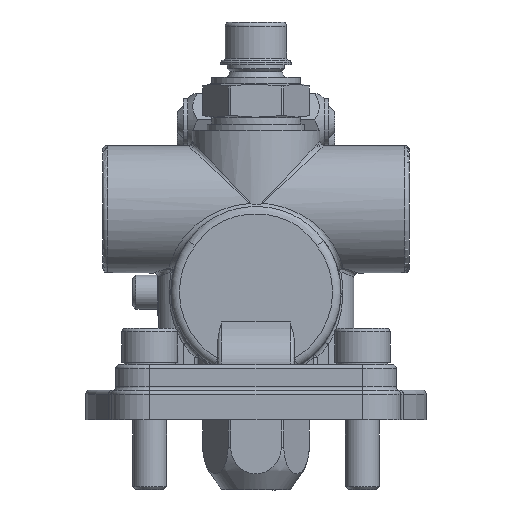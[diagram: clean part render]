
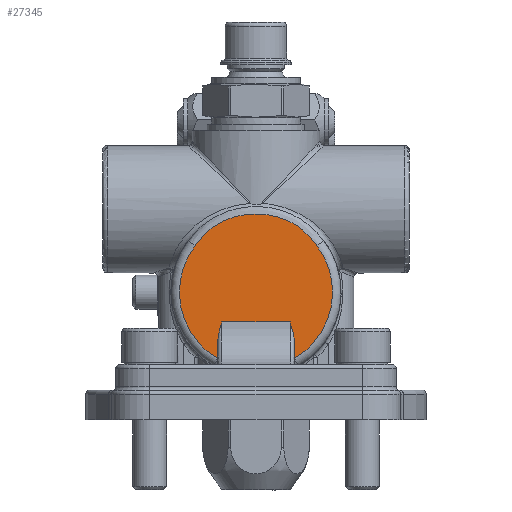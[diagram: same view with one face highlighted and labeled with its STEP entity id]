
A CAD part, left-side view. The second image highlights one B-rep face of the part: STEP entity #27345.
In plain terms, the highlighted planar face has unit normal (-1, 0, 0).
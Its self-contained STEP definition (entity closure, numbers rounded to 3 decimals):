
#22219=CARTESIAN_POINT('',(-25.5,-14.312,39.917));
#22220=VERTEX_POINT('',#22219);
#22228=CARTESIAN_POINT('',(-25.5,-9.,13.412));
#22229=VERTEX_POINT('',#22228);
#22230=CARTESIAN_POINT('',(-25.5,0.,29.));
#22231=DIRECTION('',(1.0,0.0,0.0));
#22232=DIRECTION('',(0.0,0.0,1.0));
#22233=AXIS2_PLACEMENT_3D('',#22230,#22231,#22232);
#22234=CIRCLE('',#22233,18.0);
#22235=EDGE_CURVE('',#22220,#22229,#22234,.T.);
#22314=CARTESIAN_POINT('',(-25.5,14.312,39.917));
#22315=VERTEX_POINT('',#22314);
#22323=CARTESIAN_POINT('',(-25.5,14.312,39.917));
#22324=CARTESIAN_POINT('',(-25.5,13.827,40.552));
#22325=CARTESIAN_POINT('',(-25.5,12.849,41.819));
#22326=CARTESIAN_POINT('',(-25.5,10.602,44.118));
#22327=CARTESIAN_POINT('',(-25.5,7.143,46.227));
#22328=CARTESIAN_POINT('',(-25.5,0.841,47.796));
#22329=CARTESIAN_POINT('',(-25.5,-5.727,47.051));
#22330=CARTESIAN_POINT('',(-25.5,-10.598,44.13));
#22331=CARTESIAN_POINT('',(-25.5,-12.839,41.827));
#22332=CARTESIAN_POINT('',(-25.5,-13.827,40.552));
#22333=CARTESIAN_POINT('',(-25.5,-14.312,39.917));
#22334=B_SPLINE_CURVE_WITH_KNOTS('',3,(#22323,#22324,#22325,#22326,#22327,#22328,#22329,#22330,#22331,#22332,#22333),.UNSPECIFIED.,.F.,.U.,(4,1,1,1,1,1,1,1,4),(0.,0.24,0.48,0.959,1.439,2.398,2.878,3.117,3.357),.UNSPECIFIED.);
#22335=EDGE_CURVE('',#22315,#22220,#22334,.T.);
#22370=CARTESIAN_POINT('',(-25.5,9.,13.412));
#22371=VERTEX_POINT('',#22370);
#22379=CARTESIAN_POINT('',(-25.5,0.,29.));
#22380=DIRECTION('',(1.0,0.0,0.0));
#22381=DIRECTION('',(0.0,0.0,1.0));
#22382=AXIS2_PLACEMENT_3D('',#22379,#22380,#22381);
#22383=CIRCLE('',#22382,18.0);
#22384=EDGE_CURVE('',#22371,#22315,#22383,.T.);
#25257=CARTESIAN_POINT('',(-25.5,-9.,17.417));
#25258=VERTEX_POINT('',#25257);
#25259=CARTESIAN_POINT('',(-25.5,-9.,17.417));
#25260=DIRECTION('',(0.0,0.0,-1.0));
#25261=VECTOR('',#25260,4.006);
#25262=LINE('',#25259,#25261);
#25263=EDGE_CURVE('',#25258,#22229,#25262,.T.);
#26372=CARTESIAN_POINT('',(-25.5,9.,17.417));
#26373=VERTEX_POINT('',#26372);
#26381=CARTESIAN_POINT('',(-25.5,9.,13.412));
#26382=DIRECTION('',(0.0,0.0,1.0));
#26383=VECTOR('',#26382,4.006);
#26384=LINE('',#26381,#26383);
#26385=EDGE_CURVE('',#22371,#26373,#26384,.T.);
#26786=CARTESIAN_POINT('',(-25.5,-8.,22.0));
#26787=VERTEX_POINT('',#26786);
#26788=CARTESIAN_POINT('',(-25.5,-8.,22.0));
#26789=CARTESIAN_POINT('',(-25.5,-8.447,20.588));
#26790=CARTESIAN_POINT('',(-25.5,-9.,18.899));
#26791=CARTESIAN_POINT('',(-25.5,-9.,17.417));
#26792=B_SPLINE_CURVE_WITH_KNOTS('',3,(#26788,#26789,#26790,#26791),.UNSPECIFIED.,.F.,.U.,(4,4),(0.0,0.444),.UNSPECIFIED.);
#26793=EDGE_CURVE('',#25258,#26787,#26792,.F.);
#26848=CARTESIAN_POINT('',(-25.5,8.,22.0));
#26849=VERTEX_POINT('',#26848);
#26850=CARTESIAN_POINT('',(-25.5,9.,17.417));
#26851=CARTESIAN_POINT('',(-25.5,9.,18.899));
#26852=CARTESIAN_POINT('',(-25.5,8.447,20.588));
#26853=CARTESIAN_POINT('',(-25.5,8.,22.0));
#26854=B_SPLINE_CURVE_WITH_KNOTS('',3,(#26850,#26851,#26852,#26853),.UNSPECIFIED.,.F.,.U.,(4,4),(0.913,1.357),.UNSPECIFIED.);
#26855=EDGE_CURVE('',#26849,#26373,#26854,.F.);
#27254=CARTESIAN_POINT('',(-25.5,-8.,22.0));
#27255=DIRECTION('',(0.0,1.0,0.0));
#27256=VECTOR('',#27255,16.);
#27257=LINE('',#27254,#27256);
#27258=EDGE_CURVE('',#26787,#26849,#27257,.T.);
#27330=CARTESIAN_POINT('',(-25.5,0.,29.));
#27331=DIRECTION('',(-1.0,0.0,0.0));
#27332=DIRECTION('',(0.0,0.0,1.0));
#27333=AXIS2_PLACEMENT_3D('',#27330,#27331,#27332);
#27334=PLANE('',#27333);
#27335=ORIENTED_EDGE('',*,*,#22384,.F.);
#27336=ORIENTED_EDGE('',*,*,#26385,.T.);
#27337=ORIENTED_EDGE('',*,*,#26855,.F.);
#27338=ORIENTED_EDGE('',*,*,#27258,.F.);
#27339=ORIENTED_EDGE('',*,*,#26793,.F.);
#27340=ORIENTED_EDGE('',*,*,#25263,.T.);
#27341=ORIENTED_EDGE('',*,*,#22235,.F.);
#27342=ORIENTED_EDGE('',*,*,#22335,.F.);
#27343=EDGE_LOOP('',(#27335,#27336,#27337,#27338,#27339,#27340,#27341,#27342));
#27344=FACE_OUTER_BOUND('',#27343,.T.);
#27345=ADVANCED_FACE('',(#27344),#27334,.T.);
